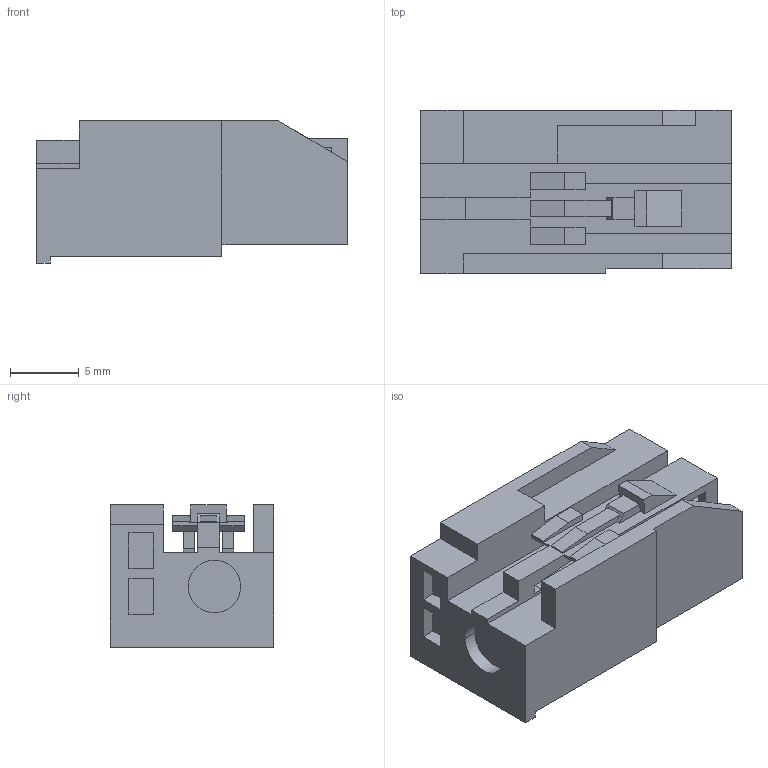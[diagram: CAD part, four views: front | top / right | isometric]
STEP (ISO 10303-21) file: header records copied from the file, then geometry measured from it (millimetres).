
FILE_DESCRIPTION(('CATIA V5 STEP','CAx-IF Rec.Pracs.--- Model Styling and Organization---1.5--- 2016-08-15','CAx-IF Rec.Pracs.---Supplemental Geometry---1.0---2011-11-01','CAx-IF Rec.Pracs.--- Composite Materials ---1.1---2010-07-15'),'2;1');
FILE_NAME('\\fss02.ad.sws.co.jp\fs100070\事務・購入\特命業務\特-35ｰ部品総合カタログメンテナンス\26年度\WEBカタログ用3D\260612_webカタログ新規登録用簡易3D\モデル保存場所\HFC5シリーズ\6099-1564.stp','2026-06-24T10:08:28+00:00',('none'),('none'),'CATIA Version 5-6 Release 2022 SP2 HF23','CATIA V5 STEP AP214 v2','none');
FILE_SCHEMA(('AUTOMOTIVE_DESIGN { 1 0 10303 214 1 1 1 1 }'));
Length unit declared in the file: millimetre
Products named in the file (1): 6099-1564
Bounding box: 22.55 x 11.85 x 10.32 mm (x, y, z)
Volume: 1949.6 mm3; surface area: 1521.5 mm2
Topology: 1 solids, 1 shells, 104 faces, 289 edges, 193 vertices
Faces by surface type: plane 95, cylinder 9
Entity records: 3127 total; most frequent: ORIENTED_EDGE 578, CARTESIAN_POINT 558, DIRECTION 430, EDGE_CURVE 289, VECTOR 268, LINE 268, VERTEX_POINT 193, EDGE_LOOP 114
